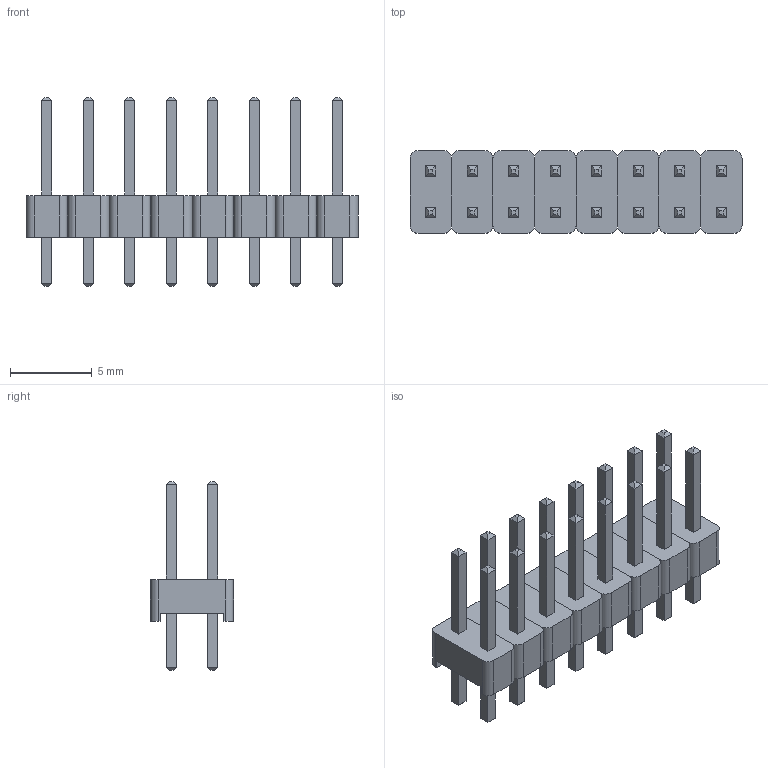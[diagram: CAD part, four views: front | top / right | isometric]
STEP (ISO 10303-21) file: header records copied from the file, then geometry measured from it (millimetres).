
FILE_DESCRIPTION(('FreeCAD Model'),'2;1');
FILE_NAME('Open CASCADE Shape Model','2022-04-06T15:56:09',( 'Engenharia Metaltex'),('Metaltex'), 'Open CASCADE STEP processor 7.5','FreeCAD','Unknown');
FILE_SCHEMA(('AUTOMOTIVE_DESIGN { 1 0 10303 214 1 1 1 1 }'));
Length unit declared in the file: millimetre
Products named in the file (33): BPDC; 1; Base; Pino1; Pino2; 2; Base001; Pino003; Pino004; 3; Base002; Pino006; Pino005; 4; Base003; Pino008; Pino007; 5; Base004; Pino009; Pino010; 6; Base005; Pino012; Pino011; 7; Base006; Pino013; Pino014; 8; Base007; Pino015; Pino016
Assembly tree (32 placements, depth 3):
  BPDC
    1
      Base
      Pino1
      Pino2
    2
      Base001
      Pino003
      Pino004
    3
      Base002
      Pino006
      Pino005
    4
      Base003
      Pino008
      Pino007
    5
      Base004
      Pino009
      Pino010
    6
      Base005
      Pino012
      Pino011
    7
      Base006
      Pino013
      Pino014
    8
      Base007
      Pino015
      Pino016
Bounding box: 20.32 x 5.08 x 11.54 mm (x, y, z)
Volume: 279.4 mm3; surface area: 1029.1 mm2
Topology: 24 solids, 24 shells, 400 faces, 928 edges, 576 vertices
Faces by surface type: plane 368, cylinder 32
Entity records: 24019 total; most frequent: CARTESIAN_POINT 3985, DIRECTION 3682, LINE 2656, VECTOR 2656, ORIENTED_EDGE 1856, PCURVE 1856, DEFINITIONAL_REPRESENTATION 1856, EDGE_CURVE 928
